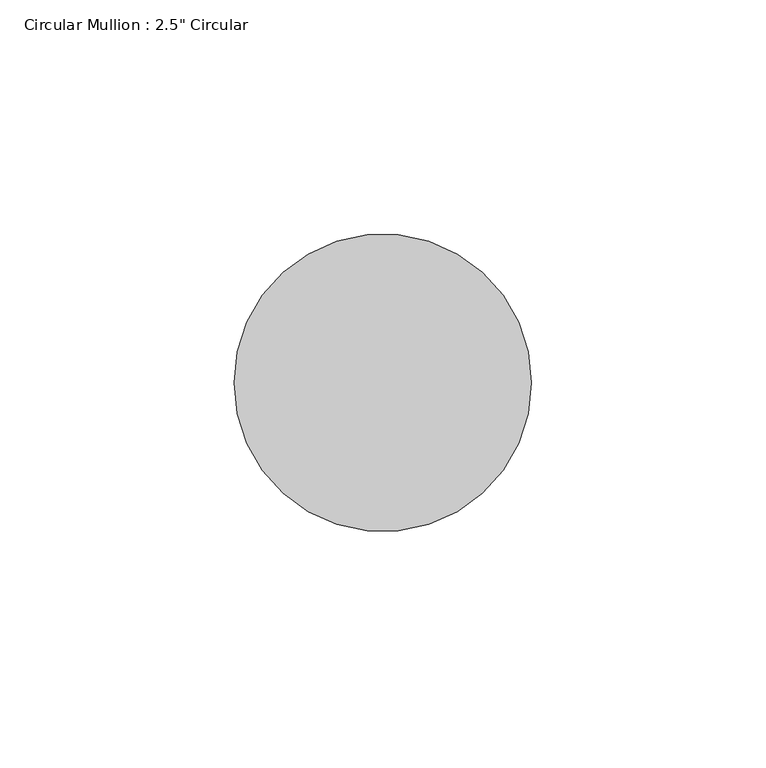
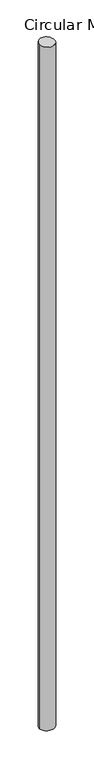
"""IFC4 building model written with IfcOpenShell, lengths in millimetres: member geometry."""

from ifc_helpers import new_model, si_unit, frame, origin, origin_with_axes, place, context, project, spatial, ellipse_curve, source, transform, mapped, element, save
from ifc_brep_helpers import plane_surface, cylinder_surface, advanced_brep


def member_bf563adc(model_context):
    return source(origin(), model_context, "Body", "AdvancedBrep", [
        advanced_brep(
        [(-31.75, 0.0, 0.6379086), (31.75, 0.0, -0.6379086), (31.75, 0.0, -3031.13277), (-31.75, 0.0, -3032.324212)],
        [
            (0, 1, ellipse_curve(frame((0.0, 0.0, 0.0), z_axis=(-0.020065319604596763, 0.04704020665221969, -0.998691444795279), x_axis=(-0.39183976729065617, 0.9186110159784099, 0.05114096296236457)), 31.7916011, 31.75)),
            (1, 2),
            (2, 3, ellipse_curve(frame((0.0, 0.0, -3031.728491), z_axis=(-0.01874251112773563, 0.04262873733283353, 0.9989151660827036), x_axis=(0.40204769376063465, -0.9144337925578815, 0.04656705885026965)), 31.7844809, 31.75)),
            (3, 0),
            (1, 0, ellipse_curve(frame((0.0, 0.0, 0.0), z_axis=(-0.020065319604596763, 0.04704020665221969, -0.998691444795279), x_axis=(-0.39183976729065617, 0.9186110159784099, 0.05114096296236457)), 31.7916011, 31.75)),
            (3, 2, ellipse_curve(frame((0.0, 0.0, -3031.728491), z_axis=(-0.01874251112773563, 0.04262873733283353, 0.9989151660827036), x_axis=(0.40204769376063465, -0.9144337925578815, 0.04656705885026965)), 31.7844809, 31.75)),
        ],
        [
            cylinder_surface(origin_with_axes(), 31.75),
            plane_surface(frame((280.3595036, 119.5892502, 0.0), z_axis=(0.020065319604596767, -0.0470402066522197, 0.9986914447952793), x_axis=(0.3918397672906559, -0.91861101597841, -0.05114096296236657))),
            plane_surface(frame((279.0221126, 122.6772215, -3031.728491), z_axis=(0.01874251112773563, -0.04262873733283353, -0.9989151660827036), x_axis=(0.40204769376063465, -0.9144337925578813, 0.04656705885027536))),
        ],
        [
            (0, [[1, 2, 3, 4]]),
            (0, [[5, -4, 6, -2]]),
            (1, [[-1, -5]]),
            (2, [[-6, -3]]),
        ],
    ),
    ])


if __name__ == "__main__":
    model = new_model("IFC4")
    model_context = context("Model", 3, world=origin())
    ifc_project = project(units=[si_unit("LENGTHUNIT", "METRE", prefix="MILLI")], contexts=[model_context])
    site = spatial("IfcSite", under=ifc_project)
    building = spatial("IfcBuilding", under=site)
    placement = place(None, origin())
    member_shape = member_bf563adc(model_context)
    element("IfcMember", 1, ObjectType="Circular Mullion : 2.5\" Circular", at=placement, inside=building, context=model_context, shape_type="MappedRepresentation", body=[
        mapped(member_shape, transform((0.0, 0.0, 0.0), x_axis=(1.0, 0.0, 0.0), y_axis=(0.0, 1.0, 0.0), z_axis=(0.0, 0.0, 1.0))),
    ])
    save(model, "model.ifc")
